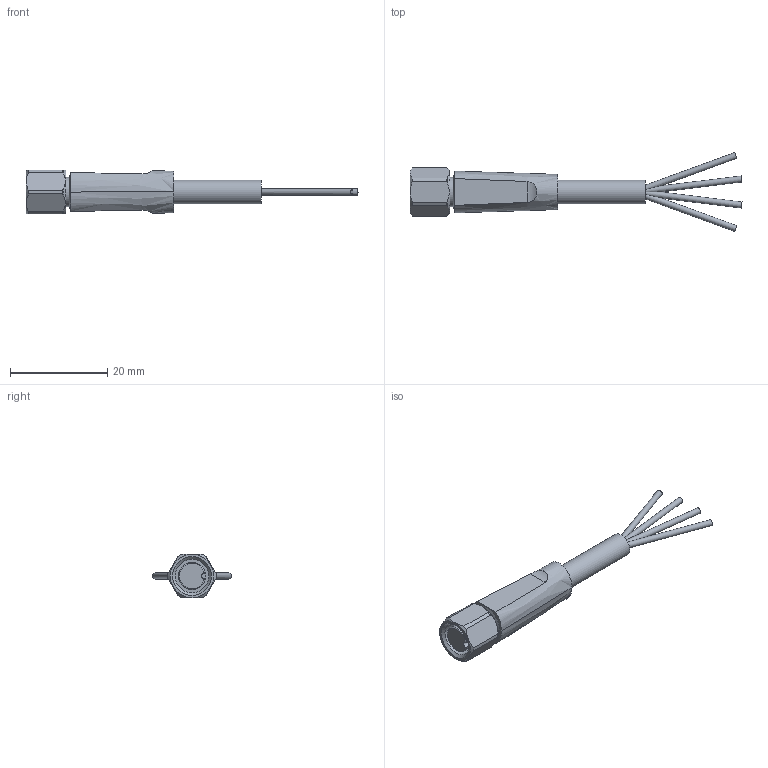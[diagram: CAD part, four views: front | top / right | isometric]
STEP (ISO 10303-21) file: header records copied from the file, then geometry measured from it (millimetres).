
FILE_DESCRIPTION( ( 'STEP AP203' ), '1' );
FILE_NAME( '//expscmdclustefs.cadenas.external/client_exchange/iodir/jobs/output/wkb81177572_no0/STEP/EVT122_2_03.stp', ' ', ( ' ' ), ( ' ' ), 'PSStep 15.0.47', 'PARTsolutions', ' ' );
FILE_SCHEMA( ( 'CONFIG_CONTROL_DESIGN' ) );
Length unit declared in the file: millimetre
Products named in the file (1): _EVT122
Bounding box: 68.43 x 16.25 x 9 mm (x, y, z)
Volume: 2080.5 mm3; surface area: 1867.9 mm2
Topology: 1 solids, 1 shells, 55 faces, 147 edges, 99 vertices
Faces by surface type: plane 22, cylinder 19, torus 7, cone 5, bspline 2
Full cylindrical faces by diameter (mm): 1.25 x4, 4.9 x1, 5.65 x1, 6 x1, 6.917 x1
Entity records: 2039 total; most frequent: CARTESIAN_POINT 759, ORIENTED_EDGE 254, DIRECTION 241, EDGE_CURVE 127, AXIS2_PLACEMENT_3D 110, VERTEX_POINT 92, EDGE_LOOP 75, FACE_OUTER_BOUND 63
